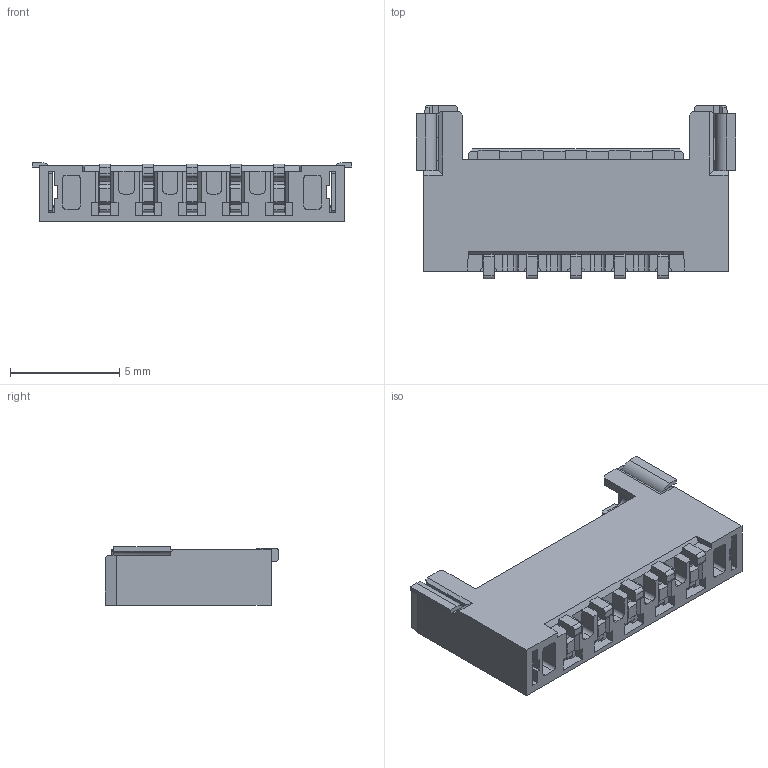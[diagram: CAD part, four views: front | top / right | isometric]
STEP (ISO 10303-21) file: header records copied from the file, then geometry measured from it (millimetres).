
FILE_DESCRIPTION((''),'2;1');
FILE_NAME('M2016WRS-05P','2026-06-15T',('PMT1 SFT'),(''),'PRO/ENGINEER BY PARAMETRIC TECHNOLOGY CORPORATION, 2011490','PRO/ENGINEER BY PARAMETRIC TECHNOLOGY CORPORATION, 2011490','');
FILE_SCHEMA(('CONFIG_CONTROL_DESIGN'));
Length unit declared in the file: millimetre
Products named in the file (1): M2016WRS-05P
Bounding box: 14.67 x 7.95 x 2.69 mm (x, y, z)
Volume: 114.3 mm3; surface area: 583.5 mm2
Topology: 1 solids, 1 shells, 635 faces, 1875 edges, 1216 vertices
Faces by surface type: plane 534, cylinder 91, sphere 10
Entity records: 20902 total; most frequent: CARTESIAN_POINT 3909, ORIENTED_EDGE 3730, DIRECTION 3256, EDGE_CURVE 1865, VECTOR 1670, LINE 1670, VERTEX_POINT 1216, AXIS2_PLACEMENT_3D 793
